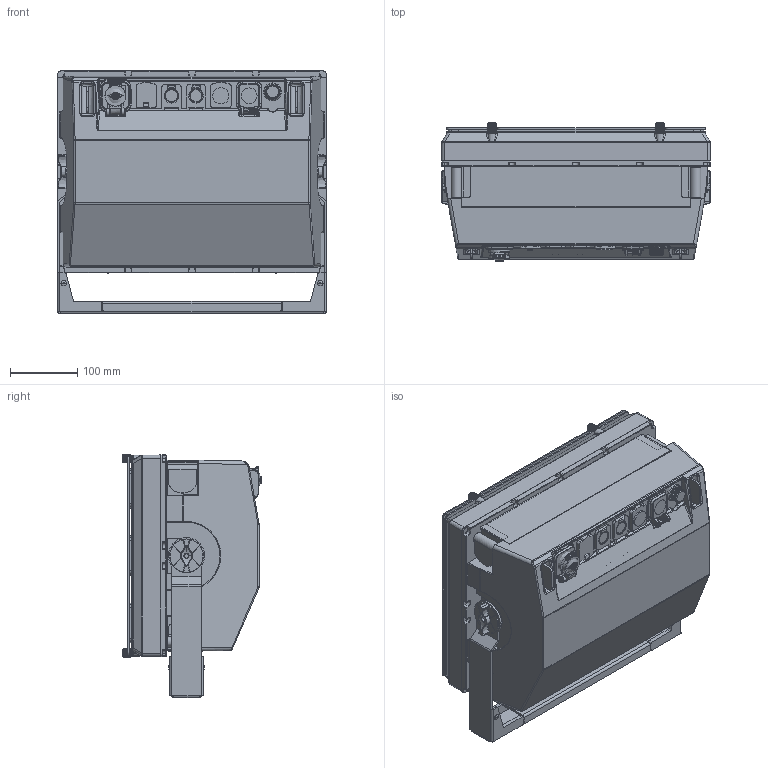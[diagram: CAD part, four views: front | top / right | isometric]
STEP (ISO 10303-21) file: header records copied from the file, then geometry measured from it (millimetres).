
FILE_DESCRIPTION((''),'2;1');
FILE_NAME('XDC1_3D','2021-10-28T15:17:09',('mr'),(''),'CREO PARAMETRIC BY PTC INC, 2019080','CREO PARAMETRIC BY PTC INC, 2019080','');
FILE_SCHEMA(('AUTOMOTIVE_DESIGN { 1 0 10303 214 1 1 1 1 }'));
Products named in the file (1): XDC1_3D
Bounding box: 400.03 x 206.46 x 361.79 mm (x, y, z)
Surface area: 2143458.4 mm2 (no closed solid volume)
Topology: 0 solids, 138 shells, 3031 faces, 9518 edges, 6297 vertices
Faces by surface type: plane 1283, cylinder 964, bspline 331, cone 204, torus 184, sphere 57, revolution 8
Entity records: 143581 total; most frequent: CARTESIAN_POINT 54890, ORIENTED_EDGE 16349, DIRECTION 15872, EDGE_CURVE 9511, VERTEX_POINT 6297, AXIS2_PLACEMENT_3D 5411, VECTOR 5039, LINE 5039
